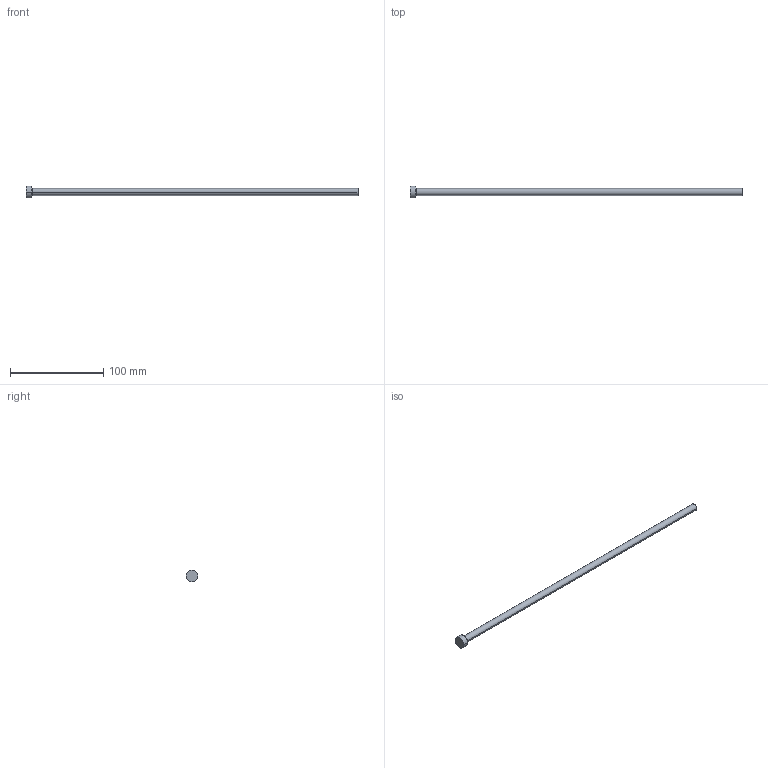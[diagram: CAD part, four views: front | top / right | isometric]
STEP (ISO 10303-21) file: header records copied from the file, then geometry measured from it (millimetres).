
FILE_DESCRIPTION (( 'STEP AP214' ), '1' );
FILE_NAME ('P20-14.STEP', '2020-03-12T09:04:38', ( '' ), ( '' ), 'SwSTEP 2.0', 'SolidWorks 2018', '' );
FILE_SCHEMA (( 'AUTOMOTIVE_DESIGN' ));
Length unit declared in the file: inch
Products named in the file (1): P20-14
Bounding box: 355.6 x 12.7 x 12.7 mm (x, y, z)
Volume: 16372.6 mm3; surface area: 8759.7 mm2
Topology: 1 solids, 1 shells, 13 faces, 24 edges, 14 vertices
Faces by surface type: cone 4, cylinder 4, plane 3, torus 2
Entity records: 366 total; most frequent: DIRECTION 68, CARTESIAN_POINT 52, ORIENTED_EDGE 48, AXIS2_PLACEMENT_3D 30, EDGE_CURVE 24, CIRCLE 16, EDGE_LOOP 14, VERTEX_POINT 14
